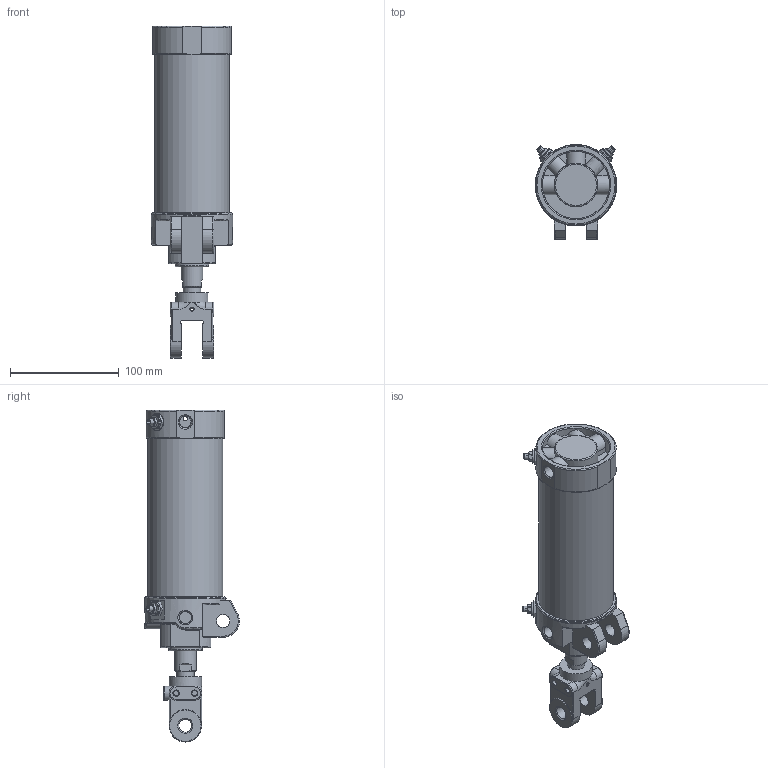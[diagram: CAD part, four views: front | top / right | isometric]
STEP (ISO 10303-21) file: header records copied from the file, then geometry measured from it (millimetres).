
FILE_DESCRIPTION((''),'2;1');
FILE_NAME('I:\3D電子目錄\氣缸\DCK\DCK\DCK-1B-63x100-Y.stp','2008-02-26T15:41:15',('Administrator'),(''),'Autodesk Inventor 11','Autodesk Inventor 11','');
FILE_SCHEMA(('AUTOMOTIVE_DESIGN { 1 0 10303 214 1 1 1 1 }'));
Length unit declared in the file: millimetre
Products named in the file (6): DCK-1B-63-Y; 緩衝針; 緩衝針-1; 緩衝針-201; 緩衝針-3
Assembly tree (8 placements, depth 3):
  DCK-1B-63-Y
    DCK-1B-63-Y
    緩衝針  x4
      緩衝針-1
      緩衝針-201
      緩衝針-3
Bounding box: 75 x 87.29 x 306 mm (x, y, z)
Volume: 377237.3 mm3; surface area: 146434.3 mm2
Topology: 16 solids, 16 shells, 672 faces, 1499 edges, 931 vertices
Faces by surface type: plane 246, cylinder 189, cone 143, torus 48, bspline 46
Full cylindrical faces by diameter (mm): 2 x1, 3 x2, 3.8 x2, 4 x6, 4.6 x4, 4.917 x2, 5 x8, 5.1 x4, 5.2 x12, 5.5 x4, 7 x1, 7.25 x1, 7.9 x4, 8 x2, 11.3 x3, 12 x4, 12.8 x4, 16 x3, 20 x1, 21 x1, 22 x2, 23 x1, 24.7 x1, 26 x1, 27 x1, 28 x1, 29 x1, 30 x3, 31 x1, 33 x1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
Entity records: 15178 total; most frequent: CARTESIAN_POINT 6245, DIRECTION 1812, ORIENTED_EDGE 1648, EDGE_CURVE 824, AXIS2_PLACEMENT_3D 775, EDGE_LOOP 630, VERTEX_POINT 590, FACE_OUTER_BOUND 423
